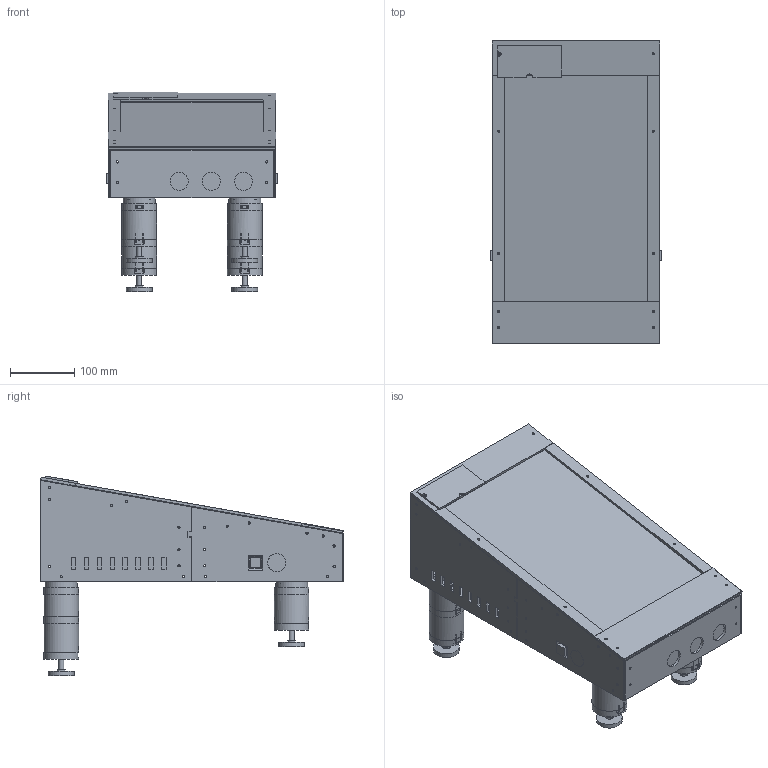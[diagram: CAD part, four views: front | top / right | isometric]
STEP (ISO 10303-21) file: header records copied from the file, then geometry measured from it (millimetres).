
FILE_DESCRIPTION(('Open CASCADE Model'),'2;1');
FILE_NAME('Open CASCADE Shape Model','2026-11-15T17:39:35',('Author'),( 'Open CASCADE'),'Open CASCADE STEP processor 7.8','Open CASCADE 7.8' ,'Unknown');
FILE_SCHEMA(('AUTOMOTIVE_DESIGN { 1 0 10303 214 1 1 1 1 }'));
Length unit declared in the file: millimetre
Products named in the file (107): Mini_VPin_Prototype_V1_19; left_front_wall; left_rear_wall; right_front_wall; right_rear_wall; front_button_panel; rear_vent_panel; corner_left_front_24; corner_left_front_56; corner_left_rear_24; corner_left_rear_128; corner_right_front_24; corner_right_front_56; corner_right_rear_24; corner_right_rear_128; splice_left; splice_right; floor_block_left_28; floor_block_left_218; floor_block_left_252; floor_block_left_442; floor_block_right_28; floor_block_right_218; floor_block_right_252; floor_block_right_442; bottom_front; bottom_rear; foot_backing_left_front; foot_receiver_left_front; foot_m6_nut_clip_receiver_left_front; foot_m8_terminal_core_left_front_55mm; foot_m8_terminal_sleeve_left_front_55mm; foot_m8_terminal_bolt_key_left_front_55mm; foot_m8_nut_clip_terminal_left_front; REFERENCE_swivel_rubber_pad_left_front; foot_backing_left_rear; foot_receiver_left_rear; foot_m6_nut_clip_receiver_left_rear; foot_twist_core_left_rear_1_45mm; foot_lock_sleeve_left_rear_1_45mm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
Assembly tree (106 placements, depth 2):
  Mini_VPin_Prototype_V1_19
    left_front_wall
    left_rear_wall
    right_front_wall
    right_rear_wall
    front_button_panel
    rear_vent_panel
    corner_left_front_24
    corner_left_front_56
    corner_left_rear_24
    corner_left_rear_128
    corner_right_front_24
    corner_right_front_56
    corner_right_rear_24
    corner_right_rear_128
    splice_left
    splice_right
    floor_block_left_28
    floor_block_left_218
    floor_block_left_252
    floor_block_left_442
    floor_block_right_28
    floor_block_right_218
    floor_block_right_252
    floor_block_right_442
    bottom_front
    bottom_rear
    foot_backing_left_front
    foot_receiver_left_front
    foot_m6_nut_clip_receiver_left_front
    foot_m8_terminal_core_left_front_55mm
    foot_m8_terminal_sleeve_left_front_55mm
    foot_m8_terminal_bolt_key_left_front_55mm
    foot_m8_nut_clip_terminal_left_front
    REFERENCE_swivel_rubber_pad_left_front
    foot_backing_left_rear
    foot_receiver_left_rear
    foot_m6_nut_clip_receiver_left_rear
    foot_twist_core_left_rear_1_45mm
    foot_lock_sleeve_left_rear_1_45mm
    foot_bolt_key_left_rear_1_45mm
    foot_m6_nut_clip_upper_left_rear_1_45mm
    foot_m8_terminal_core_left_rear_55mm
    foot_m8_terminal_sleeve_left_rear_55mm
    foot_m8_terminal_bolt_key_left_rear_55mm
    foot_m8_nut_clip_terminal_left_rear
    REFERENCE_swivel_rubber_pad_left_rear
    foot_backing_right_front
    foot_receiver_right_front
    foot_m6_nut_clip_receiver_right_front
    foot_m8_terminal_core_right_front_55mm
    foot_m8_terminal_sleeve_right_front_55mm
    foot_m8_terminal_bolt_key_right_front_55mm
    foot_m8_nut_clip_terminal_right_front
    REFERENCE_swivel_rubber_pad_right_front
    foot_backing_right_rear
    foot_receiver_right_rear
    foot_m6_nut_clip_receiver_right_rear
    foot_twist_core_right_rear_1_45mm
    foot_lock_sleeve_right_rear_1_45mm
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Bounding box: 267 x 470.54 x 310.59 mm (x, y, z)
Volume: 8198296.7 mm3; surface area: 1677687.8 mm2
Topology: 106 solids, 106 shells, 2473 faces, 6185 edges, 4104 vertices
Faces by surface type: plane 2098, cylinder 349, extrusion 20, bspline 4, cone 2
Full cylindrical faces by diameter (mm): 3.4 x158, 4.5 x4, 5.5 x48, 6 x2, 6.4 x2, 6.7 x18, 8 x4, 8.7 x8, 10.8 x16, 11.3 x16, 12 x4, 27.8 x2, 28 x5, 40 x6, 50 x8, 54 x16
Entity records: 165505 total; most frequent: CARTESIAN_POINT 39442, DIRECTION 21701, VECTOR 14307, LINE 14287, ORIENTED_EDGE 12370, PCURVE 12370, DEFINITIONAL_REPRESENTATION 12370, EDGE_CURVE 6185
